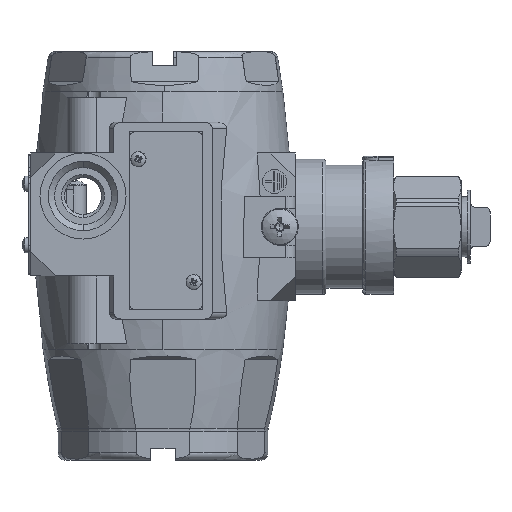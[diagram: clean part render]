
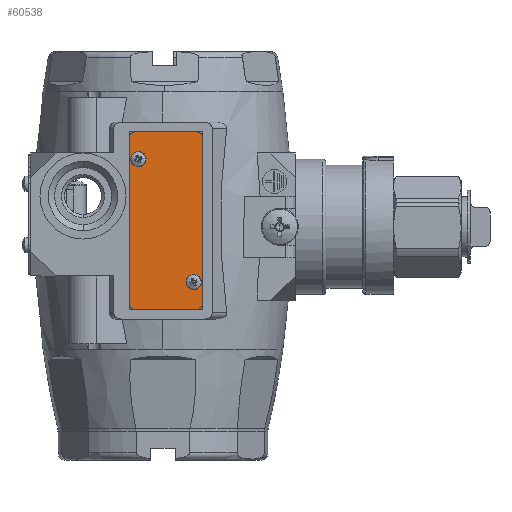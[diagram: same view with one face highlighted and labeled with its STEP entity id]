
A CAD part, left-side view. The second image highlights one B-rep face of the part: STEP entity #60538.
In plain terms, the highlighted planar face has unit normal (-1, 0, 0).
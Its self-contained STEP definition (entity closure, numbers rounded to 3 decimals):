
#19462=CARTESIAN_POINT('',(-51.182,84.77,
94.717));
#19463=DIRECTION('',(-1.,0.,0.));
#19464=DIRECTION('',(0.,1.,0.));
#19465=AXIS2_PLACEMENT_3D('',#19462,#19463,#19464);
#19467=DIRECTION('',(0.,0.,-1.));
#19468=VECTOR('',#19467,53.8);
#19469=CARTESIAN_POINT('',(-51.182,86.77,
148.517));
#19470=LINE('',#19469,#19468);
#19471=CARTESIAN_POINT('',(-51.182,84.77,
148.517));
#19472=DIRECTION('',(-1.,0.,0.));
#19473=DIRECTION('',(0.,0.,1.));
#19474=AXIS2_PLACEMENT_3D('',#19471,#19472,#19473);
#19476=DIRECTION('',(0.,1.,0.));
#19477=VECTOR('',#19476,19.8);
#19478=CARTESIAN_POINT('',(-51.182,64.97,
150.517));
#19479=LINE('',#19478,#19477);
#19480=CARTESIAN_POINT('',(-51.182,64.97,
148.517));
#19481=DIRECTION('',(-1.,0.,0.));
#19482=DIRECTION('',(0.,-1.,0.));
#19483=AXIS2_PLACEMENT_3D('',#19480,#19481,#19482);
#19485=DIRECTION('',(0.,0.,1.));
#19486=VECTOR('',#19485,53.8);
#19487=CARTESIAN_POINT('',(-51.182,62.97,
94.717));
#19488=LINE('',#19487,#19486);
#19489=CARTESIAN_POINT('',(-51.182,64.97,
94.717));
#19490=DIRECTION('',(-1.,0.,0.));
#19491=DIRECTION('',(0.,0.,-1.));
#19492=AXIS2_PLACEMENT_3D('',#19489,#19490,#19491);
#19494=DIRECTION('',(0.,-1.,0.));
#19495=VECTOR('',#19494,19.8);
#19496=CARTESIAN_POINT('',(-51.182,84.77,
92.717));
#19497=LINE('',#19496,#19495);
#19498=CARTESIAN_POINT('',(-51.182,83.87,
141.617));
#19499=DIRECTION('',(-1.,0.,0.));
#19500=DIRECTION('',(0.,-0.924,0.382));
#19501=AXIS2_PLACEMENT_3D('',#19498,#19499,#19500);
#19503=CARTESIAN_POINT('',(-51.182,83.87,
141.617));
#19504=DIRECTION('',(-1.,0.,0.));
#19505=DIRECTION('',(0.,0.924,-0.382));
#19506=AXIS2_PLACEMENT_3D('',#19503,#19504,#19505);
#19508=CARTESIAN_POINT('',(-51.182,65.87,
101.617));
#19509=DIRECTION('',(-1.,0.,0.));
#19510=DIRECTION('',(0.,-0.924,0.382));
#19511=AXIS2_PLACEMENT_3D('',#19508,#19509,#19510);
#19513=CARTESIAN_POINT('',(-51.182,65.87,
101.617));
#19514=DIRECTION('',(-1.,0.,0.));
#19515=DIRECTION('',(0.,0.924,-0.382));
#19516=AXIS2_PLACEMENT_3D('',#19513,#19514,#19515);
#38963=CARTESIAN_POINT('',(-51.182,86.77,
94.717));
#38964=CARTESIAN_POINT('',(-51.182,84.77,
92.717));
#38965=VERTEX_POINT('',#38963);
#38966=VERTEX_POINT('',#38964);
#38967=CARTESIAN_POINT('',(-51.182,64.97,
92.717));
#38968=CARTESIAN_POINT('',(-51.182,62.97,
94.717));
#38969=VERTEX_POINT('',#38967);
#38970=VERTEX_POINT('',#38968);
#38971=CARTESIAN_POINT('',(-51.182,62.97,
148.517));
#38972=CARTESIAN_POINT('',(-51.182,64.97,
150.517));
#38973=VERTEX_POINT('',#38971);
#38974=VERTEX_POINT('',#38972);
#38975=CARTESIAN_POINT('',(-51.182,84.77,
150.517));
#38976=CARTESIAN_POINT('',(-51.182,86.77,
148.517));
#38977=VERTEX_POINT('',#38975);
#38978=VERTEX_POINT('',#38976);
#39113=CARTESIAN_POINT('',(-51.182,81.559,
142.572));
#39114=CARTESIAN_POINT('',(-51.182,86.18,
140.663));
#39115=VERTEX_POINT('',#39113);
#39116=VERTEX_POINT('',#39114);
#39203=CARTESIAN_POINT('',(-51.182,63.559,
102.572));
#39204=CARTESIAN_POINT('',(-51.182,68.18,
100.663));
#39205=VERTEX_POINT('',#39203);
#39206=VERTEX_POINT('',#39204);
#60511=CARTESIAN_POINT('',(-51.182,74.87,
121.617));
#60512=DIRECTION('',(-1.,0.,0.));
#60513=DIRECTION('',(0.,0.,1.));
#60514=AXIS2_PLACEMENT_3D('',#60511,#60512,#60513);
#60515=PLANE('',#60514);
#60516=ORIENTED_EDGE('',*,*,#60422,.F.);
#60517=ORIENTED_EDGE('',*,*,#60436,.F.);
#60518=ORIENTED_EDGE('',*,*,#60450,.F.);
#60519=ORIENTED_EDGE('',*,*,#60464,.F.);
#60520=ORIENTED_EDGE('',*,*,#60478,.F.);
#60521=ORIENTED_EDGE('',*,*,#60492,.F.);
#60522=ORIENTED_EDGE('',*,*,#60505,.F.);
#60523=ORIENTED_EDGE('',*,*,#60407,.F.);
#60524=EDGE_LOOP('',(#60516,#60517,#60518,#60519,#60520,#60521,#60522,#60523));
#60525=FACE_OUTER_BOUND('',#60524,.F.);
#60527=ORIENTED_EDGE('',*,*,#60526,.T.);
#60529=ORIENTED_EDGE('',*,*,#60528,.T.);
#60530=EDGE_LOOP('',(#60527,#60529));
#60531=FACE_BOUND('',#60530,.F.);
#60533=ORIENTED_EDGE('',*,*,#60532,.T.);
#60535=ORIENTED_EDGE('',*,*,#60534,.T.);
#60536=EDGE_LOOP('',(#60533,#60535));
#60537=FACE_BOUND('',#60536,.F.);
#60538=ADVANCED_FACE('',(#60525,#60531,#60537),#60515,.T.);
#19466=CIRCLE('',#19465,2.);
#19475=CIRCLE('',#19474,2.);
#19484=CIRCLE('',#19483,2.);
#19493=CIRCLE('',#19492,2.);
#19502=CIRCLE('',#19501,2.5);
#19507=CIRCLE('',#19506,2.5);
#19512=CIRCLE('',#19511,2.5);
#19517=CIRCLE('',#19516,2.5);
#60407=EDGE_CURVE('',#38966,#38969,#19497,.T.);
#60422=EDGE_CURVE('',#38965,#38966,#19466,.T.);
#60436=EDGE_CURVE('',#38978,#38965,#19470,.T.);
#60450=EDGE_CURVE('',#38977,#38978,#19475,.T.);
#60464=EDGE_CURVE('',#38974,#38977,#19479,.T.);
#60478=EDGE_CURVE('',#38973,#38974,#19484,.T.);
#60492=EDGE_CURVE('',#38970,#38973,#19488,.T.);
#60505=EDGE_CURVE('',#38969,#38970,#19493,.T.);
#60526=EDGE_CURVE('',#39115,#39116,#19502,.T.);
#60528=EDGE_CURVE('',#39116,#39115,#19507,.T.);
#60532=EDGE_CURVE('',#39205,#39206,#19512,.T.);
#60534=EDGE_CURVE('',#39206,#39205,#19517,.T.);
